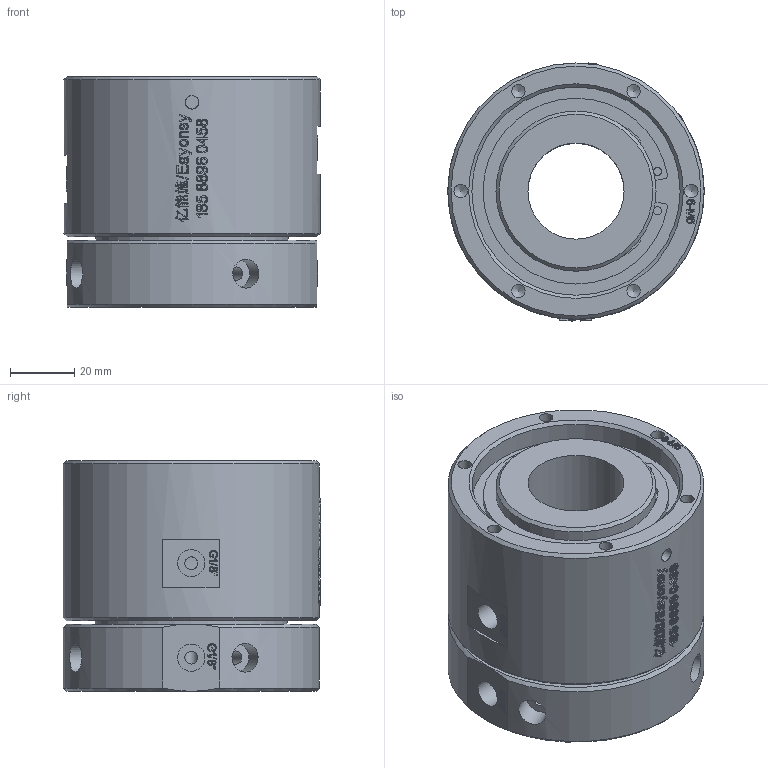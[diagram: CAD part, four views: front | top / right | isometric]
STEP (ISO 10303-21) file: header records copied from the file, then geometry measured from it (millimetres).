
FILE_DESCRIPTION(/* description */ (''),/* implementation_level */ '2;1');
FILE_NAME(/* name */ 'YQ0201D30-3D模型.stp',/* time_stamp */ '2025-08-04T16:58:08+08:00',/* author */ (''),/* organization */ (''),/* preprocessor_version */ 'ST-DEVELOPER v16.7',/* originating_system */ 'SIEMENS PLM Software NX 12.0',/* authorisation */ '');
FILE_SCHEMA (('AUTOMOTIVE_DESIGN { 1 0 10303 214 3 1 1 1 }'));
Length unit declared in the file: millimetre
Products named in the file (1): AdmiA0707E3Egou1
Bounding box: 80 x 80.51 x 72.4 mm (x, y, z)
Volume: 288989.8 mm3; surface area: 46782.6 mm2
Topology: 1 solids, 1 shells, 1452 faces, 3982 edges, 2657 vertices
Faces by surface type: extrusion 821, plane 470, cylinder 74, bspline 69, cone 18
Full cylindrical faces by diameter (mm): 2.5 x2, 4 x6, 4.1 x2, 4.2 x14, 6.8 x4, 8.5 x4, 9 x4, 30 x1, 47 x1, 50 x1, 60 x1, 65 x1, 80 x1
Entity records: 57268 total; most frequent: CARTESIAN_POINT 26772, ORIENTED_EDGE 7772, B_SPLINE_CURVE_WITH_KNOTS 3890, EDGE_CURVE 3886, DIRECTION 3051, VERTEX_POINT 2629, EDGE_LOOP 1645, ADVANCED_FACE 1452
